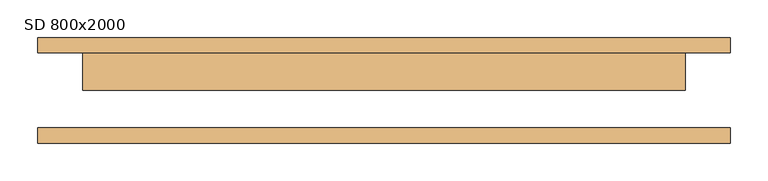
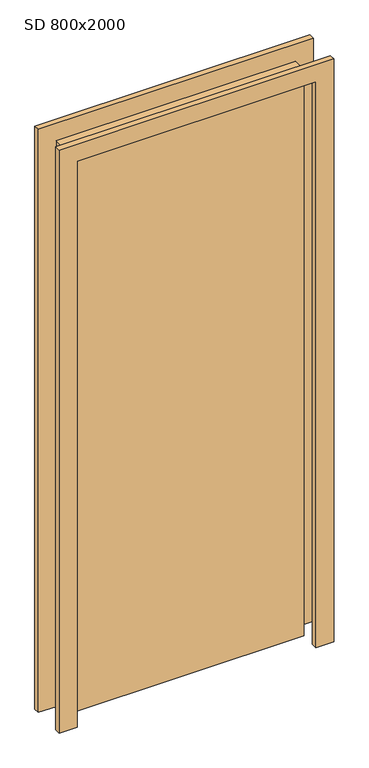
"""IFC4 building model written with IfcOpenShell, lengths in millimetres: door geometry, JednokridlePlne : SD 800x2000."""

from ifc_helpers import new_model, si_unit, frame, origin, origin_with_axes, place, context, project, spatial, polyline, outline, extrude, source, transform, mapped, element, save


def sd_800x2000_80f4ff25(model_context):
    return source(origin(), model_context, "Body", "SweptSolid", [
        extrude(outline(polyline([(2060.0, -460.0), (0.0, -460.0), (0.0, -400.0), (2000.0, -400.0), (2000.0, 400.0), (0.0, 400.0), (0.0, 460.0), (2060.0, 460.0), (2060.0, -460.0)])), frame((0.0, 50.0, 0.0), z_axis=(0.0, 1.0, 0.0), x_axis=(0.0, 0.0, 1.0)), (0.0, 0.0, 1.0), 20.0),
        extrude(outline(polyline([(2060.0, 460.0), (2060.0, -460.0), (0.0, -460.0), (0.0, -400.0), (2000.0, -400.0), (2000.0, 400.0), (0.0, 400.0), (0.0, 460.0), (2060.0, 460.0)])), frame((0.0, -70.0, 0.0), z_axis=(0.0, 1.0, 0.0), x_axis=(0.0, 0.0, 1.0)), (0.0, 0.0, 1.0), 20.0),
        extrude(outline(polyline([(400.0, 0.0), (-400.0, 0.0), (-400.0, 50.0), (400.0, 50.0), (400.0, 0.0)])), origin_with_axes(), (0.0, 0.0, 1.0), 2000.0),
    ])


if __name__ == "__main__":
    model = new_model("IFC4")
    model_context = context("Model", 3, world=origin())
    ifc_project = project(units=[si_unit("LENGTHUNIT", "METRE", prefix="MILLI")], contexts=[model_context])
    site = spatial("IfcSite", under=ifc_project)
    building = spatial("IfcBuilding", under=site)
    placement = place(None, origin())
    sd_800x2000_shape = sd_800x2000_80f4ff25(model_context)
    element("IfcDoor", 1, ObjectType="JednokridlePlne : SD 800x2000", at=placement, inside=building, context=model_context, shape_type="MappedRepresentation", body=[
        mapped(sd_800x2000_shape, transform((0.0, 0.0, 0.0), x_axis=(1.0, 0.0, 0.0), y_axis=(0.0, 1.0, 0.0), z_axis=(0.0, 0.0, 1.0))),
    ])
    save(model, "model.ifc")
